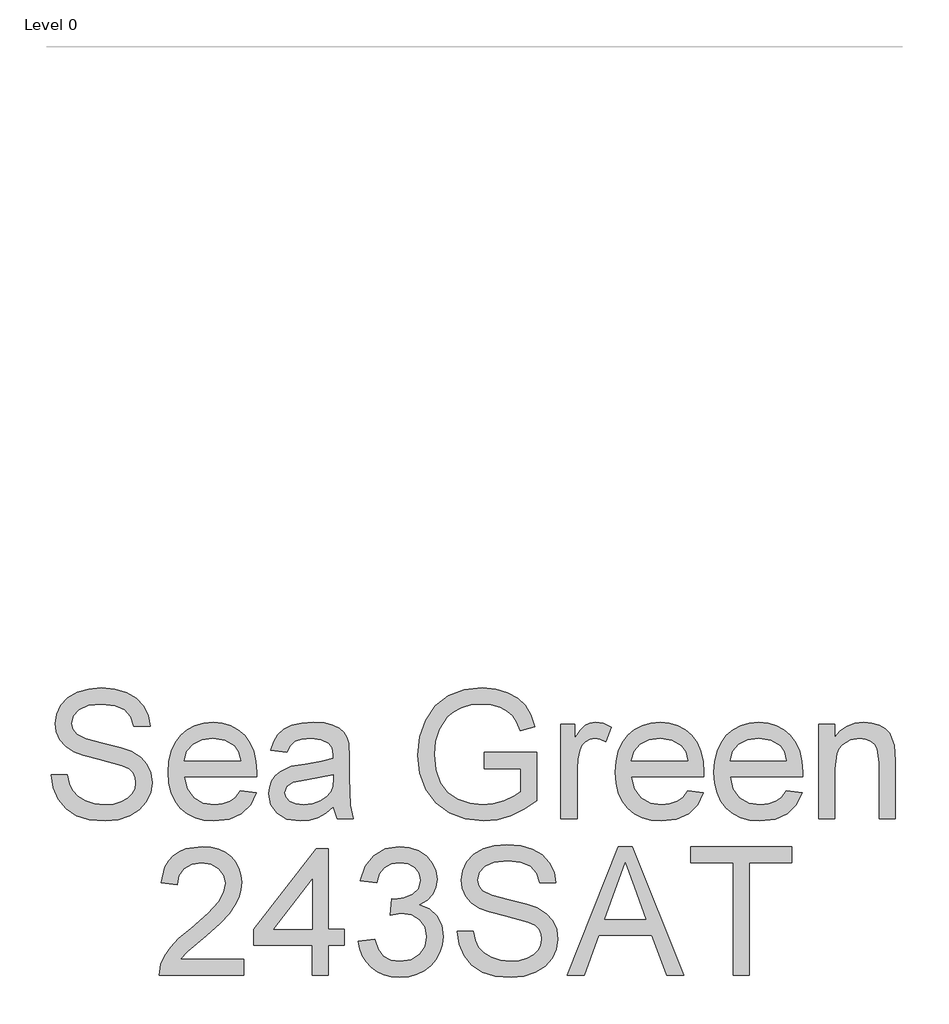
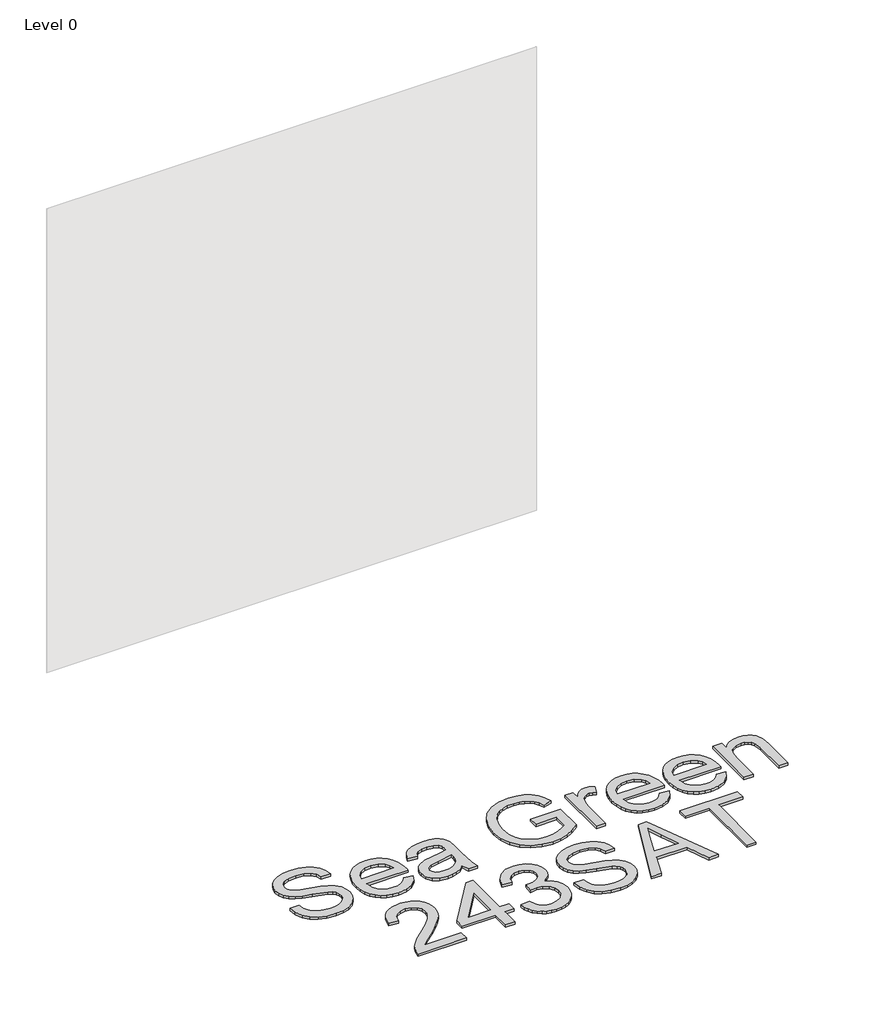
# One storey, part 31 of 37: 1 proxy.
"""IFC4 building model written with IfcOpenShell, lengths in millimetres."""

from ifc_helpers import new_model, si_unit, origin, origin_with_axes, place, context, project, spatial, polyline, outline, extrude, element, save

model = new_model("IFC4")

# Units and contexts
model_context = context("Model", 3, world=origin())
ifc_project = project(units=[si_unit("LENGTHUNIT", "METRE", prefix="MILLI")], contexts=[model_context])

# Site, building, storey
site = spatial("IfcSite", under=ifc_project)
building = spatial("IfcBuilding", under=site)
storey = spatial("IfcBuildingStorey", under=building, Name="Level 0", Elevation=0.0)

# Proxy
placement = place(None, origin())
element("IfcBuildingElementProxy", 1, Name="300mm Arial", ObjectType="300mm Arial", at=placement, inside=storey, context=model_context, shape_type="SweptSolid", body=[
    extrude(outline(polyline([(22560.4751407, -6899.2649241), (22598.146257, -6899.2649241), (22602.4688704, -6920.1698185), (22610.2863628, -6936.9728286), (22622.4816509, -6950.308551), (22639.9376516, -6960.8115819), (22661.2748073, -6967.6265959), (22685.1135606, -6969.8982672), (22706.1012284, -6968.1784189), (22724.4769341, -6963.0188739), (22739.3669579, -6954.8518936), (22749.89758, -6944.1097394), (22756.1607709, -6931.7764955), (22758.2485013, -6918.8362463), (22756.6850028, -6906.2270909), (22751.9945073, -6895.3285868), (22742.4663637, -6886.0303694), (22726.3899205, -6878.222074), (22671.538715, -6863.837888), (22635.5322647, -6854.3189414), (22612.4936548, -6845.2598472), (22593.7408701, -6832.5863125), (22580.451133, -6817.2272392), (22572.532473, -6799.5137211), (22569.8929197, -6779.7768521), (22573.1578724, -6757.7131294), (22582.9527306, -6737.1393289), (22599.0199767, -6719.7017223), (22621.1020935, -6707.0465817), (22647.6079912, -6699.3486509), (22676.9465803, -6696.782674), (22708.7315847, -6699.4682126), (22736.5434635, -6707.5248283), (22759.3889354, -6720.7869742), (22776.274719, -6739.0891034), (22786.961691, -6761.2907818), (22791.210728, -6786.2515752), (22753.5396117, -6786.2515752), (22746.6234302, -6763.7739853), (22732.202456, -6747.5503893), (22709.6696838, -6737.7279401), (22678.4181083, -6734.4537903), (22646.4307688, -6737.6911519), (22624.4866078, -6747.4032365), (22611.794679, -6761.695452), (22607.564036, -6778.6732061), (22610.5622743, -6793.1493626), (22619.5569891, -6804.7928278), (22640.8205684, -6815.2038882), (22681.0668587, -6825.8356779), (22722.6007359, -6835.9340387), (22747.7270762, -6844.7448125), (22769.2021877, -6858.4116286), (22784.1841819, -6875.2790181), (22792.9857587, -6895.1630399), (22795.9196176, -6917.8797531), (22792.5443003, -6941.102304), (22782.4183483, -6962.9452975), (22765.9556291, -6981.7440675), (22743.5700097, -6995.8339479), (22716.6502447, -7004.6355246), (22686.5850886, -7007.5693835), (22649.6773274, -7004.4055984), (22619.2994717, -6994.9142429), (22595.1020335, -6979.0585289), (22576.7355248, -6956.8016682), (22564.9449069, -6929.6887651), (22560.4751407, -6899.2649241)])), origin_with_axes(), (0.0, 0.0, 1.0), 10.0),
    extrude(outline(polyline([(23002.6692989, -6936.9360404), (23039.6046512, -6941.64493), (23026.29652, -6969.4752029), (23005.0605318, -6990.2789297), (22976.3749333, -7003.2467701), (22940.7179709, -7007.5693835), (22917.3436686, -7005.7046817), (22896.5169492, -7000.1105761), (22878.2378125, -6990.7870668), (22862.5062587, -6977.7341537), (22849.8557166, -6961.3151204), (22840.8196151, -6941.8932503), (22835.3979542, -6919.4685435), (22833.5907339, -6894.0409998), (22835.4163483, -6867.7512327), (22840.8931915, -6844.5792656), (22850.0212635, -6824.5250983), (22862.8005643, -6807.5887309), (22878.4907314, -6794.133447), (22896.3514023, -6784.5225298), (22916.3825769, -6778.7559796), (22938.5842553, -6776.8337961), (22960.0708631, -6778.751381), (22979.5019302, -6784.5041357), (22996.8774567, -6794.0920602), (23012.1974425, -6807.5151545), (23024.7031311, -6824.4147337), (23033.6357658, -6844.4321128), (23038.9953466, -6867.5672917), (23040.7818736, -6893.8202706), (23040.5611444, -6903.9738137), (22871.2618502, -6903.9738137), (22877.7825585, -6932.1719686), (22892.9300997, -6952.902119), (22914.7914873, -6965.6492302), (22941.4537349, -6969.8982672), (22961.5033036, -6967.9300985), (22978.3890872, -6962.0255925), (22992.1110856, -6951.8168672), (23002.6692989, -6936.9360404)]), holes=[polyline([(22871.2618502, -6866.3026974), (23003.1107573, -6866.3026974), (22998.0155916, -6846.4002814), (22988.0275955, -6832.1632482), (22966.0650403, -6818.9194964), (22938.4371025, -6814.5049125), (22913.0440478, -6818.0273826), (22892.0471829, -6828.5947929), (22877.4514648, -6845.0667092), (22871.2618502, -6866.3026974)])]), origin_with_axes(), (0.0, 0.0, 1.0), 10.0),
    extrude(outline(polyline([(23219.719676, -6974.6071568), (23201.7210494, -6990.0398064), (23183.1889939, -7000.1381672), (23163.7004452, -7005.7115794), (23142.832339, -7007.5693835), (23111.3508373, -7003.0996173), (23088.1282863, -6989.6903186), (23073.8084797, -6969.3280501), (23069.0352108, -6943.9993748), (23070.8378326, -6928.3827841), (23076.2456979, -6914.2009331), (23084.5874221, -6902.0608273), (23095.1916206, -6892.5694718), (23121.5687597, -6880.2086368), (23154.1631045, -6874.5432541), (23192.6803494, -6868.5835657), (23219.4989468, -6861.5938078), (23219.719676, -6853.2060983), (23217.1261079, -6836.3938912), (23209.3454038, -6825.3942195), (23191.9445854, -6817.2272392), (23167.7011619, -6814.5049125), (23145.2603602, -6816.3167313), (23129.5885872, -6821.7521878), (23118.9016152, -6831.8045633), (23111.4152166, -6847.4671392), (23073.7441003, -6842.7582497), (23080.2832028, -6822.156858), (23090.0412727, -6805.9700502), (23103.928818, -6793.590821), (23122.8563467, -6784.4121652), (23146.0053212, -6778.7283884), (23172.5572042, -6776.8337961), (23198.0238353, -6778.5076592), (23218.2113598, -6783.5292485), (23233.4324774, -6791.0800264), (23243.9998877, -6800.3414556), (23251.0080397, -6811.7917827), (23255.5513823, -6825.9092543), (23257.3907923, -6858.8714811), (23257.3907923, -6905.7396473), (23259.3037787, -6971.1858542), (23266.8085714, -7002.860494), (23229.1374551, -7002.860494), (23219.719676, -6974.6071568)]), holes=[polyline([(23219.719676, -6899.2649241), (23158.9455704, -6910.8164188), (23126.5351666, -6916.9232599), (23111.856675, -6926.8560738), (23106.7063271, -6941.3506244), (23109.5114273, -6952.5526311), (23117.9267279, -6961.7312869), (23131.768288, -6967.8565221), (23150.8521665, -6969.8982672), (23171.0856763, -6967.64499), (23188.9647412, -6960.8851583), (23203.4592918, -6950.9247533), (23213.5392585, -6939.069756), (23218.0090247, -6926.8560738), (23219.4989468, -6909.933502), (23219.719676, -6899.2649241)])]), origin_with_axes(), (0.0, 0.0, 1.0), 10.0),
    extrude(outline(polyline([(23572.8863914, -6885.1382555), (23572.8863914, -6847.4671392), (23695.3175194, -6847.4671392), (23695.3175194, -6960.1126061), (23665.565063, -6980.8059684), (23634.8745076, -6995.6500069), (23603.3194294, -7004.5895394), (23570.973405, -7007.5693835), (23528.7129608, -7002.8329028), (23490.5176127, -6988.6234608), (23458.7877906, -6965.437698), (23435.9239246, -6933.7722553), (23422.1007586, -6895.7884393), (23417.4930366, -6853.6475567), (23422.0823645, -6811.2031715), (23435.8503482, -6771.7202364), (23458.2267705, -6738.6016598), (23488.6414145, -6715.2503502), (23525.6871314, -6701.399593), (23567.9567726, -6696.782674), (23598.9876189, -6699.4590155), (23626.8914683, -6707.4880401), (23650.3899307, -6720.2903335), (23668.2046163, -6737.2864817), (23681.3839888, -6759.295022), (23690.9765118, -6787.134492), (23656.2484515, -6796.9201531), (23648.4953384, -6777.0637224), (23639.0683623, -6762.0817281), (23626.5971627, -6750.7877509), (23609.7113791, -6741.9953712), (23589.5790369, -6736.3391855), (23567.3681615, -6734.4537903), (23541.3681014, -6736.4863383), (23519.1388319, -6742.5839824), (23500.7631262, -6751.9833674), (23486.3237579, -6763.9211381), (23466.9363768, -6792.9470275), (23458.1072089, -6821.3843058), (23455.1641529, -6852.1024524), (23458.7050171, -6888.1272967), (23469.3276097, -6917.7693885), (23486.710034, -6940.8171955), (23510.5303932, -6957.0591856), (23538.4066514, -6966.6884968), (23567.9567726, -6969.8982672), (23594.0488032, -6967.4794431), (23619.4970402, -6960.2229707), (23641.597551, -6950.2257775), (23657.6464031, -6939.5847908), (23657.6464031, -6885.1382555), (23572.8863914, -6885.1382555)])), origin_with_axes(), (0.0, 0.0, 1.0), 10.0),
    extrude(outline(polyline([(23751.8241938, -7002.860494), (23751.8241938, -6781.5426857), (23784.7864206, -6781.5426857), (23784.7864206, -6814.2841833), (23796.9633146, -6795.3014723), (23808.1837155, -6784.1178596), (23819.4409046, -6778.654812), (23831.7281632, -6776.8337961), (23850.4901449, -6779.7400639), (23869.5464323, -6788.4588672), (23856.9648681, -6822.2304343), (23843.7211162, -6816.4362929), (23830.4773644, -6814.5049125), (23819.2293724, -6816.3627165), (23809.1769969, -6821.9361288), (23801.0560018, -6830.8020848), (23795.6021513, -6842.5375205), (23791.0220204, -6863.5803706), (23789.4953101, -6886.5362071), (23789.4953101, -7002.860494), (23751.8241938, -7002.860494)])), origin_with_axes(), (0.0, 0.0, 1.0), 10.0),
    extrude(outline(polyline([(24048.0427764, -6936.9360404), (24084.9781287, -6941.64493), (24071.6699975, -6969.4752029), (24050.4340093, -6990.2789297), (24021.7484107, -7003.2467701), (23986.0914484, -7007.5693835), (23962.7171461, -7005.7046817), (23941.8904266, -7000.1105761), (23923.61129, -6990.7870668), (23907.8797362, -6977.7341537), (23895.2291941, -6961.3151204), (23886.1930926, -6941.8932503), (23880.7714317, -6919.4685435), (23878.9642114, -6894.0409998), (23880.7898258, -6867.7512327), (23886.266669, -6844.5792656), (23895.394741, -6824.5250983), (23908.1740418, -6807.5887309), (23923.8642089, -6794.133447), (23941.7248797, -6784.5225298), (23961.7560544, -6778.7559796), (23983.9577328, -6776.8337961), (24005.4443406, -6778.751381), (24024.8754077, -6784.5041357), (24042.2509342, -6794.0920602), (24057.57092, -6807.5151545), (24070.0766086, -6824.4147337), (24079.0092433, -6844.4321128), (24084.3688241, -6867.5672917), (24086.1553511, -6893.8202706), (24085.9346219, -6903.9738137), (23916.6353277, -6903.9738137), (23923.156036, -6932.1719686), (23938.3035772, -6952.902119), (23960.1649648, -6965.6492302), (23986.8272124, -6969.8982672), (24006.8767811, -6967.9300985), (24023.7625647, -6962.0255925), (24037.4845631, -6951.8168672), (24048.0427764, -6936.9360404)]), holes=[polyline([(23916.6353277, -6866.3026974), (24048.4842347, -6866.3026974), (24043.3890691, -6846.4002814), (24033.4010729, -6832.1632482), (24011.4385178, -6818.9194964), (23983.81058, -6814.5049125), (23958.4175253, -6818.0273826), (23937.4206604, -6828.5947929), (23922.8249422, -6845.0667092), (23916.6353277, -6866.3026974)])]), origin_with_axes(), (0.0, 0.0, 1.0), 10.0),
    extrude(outline(polyline([(24278.7783637, -6936.9360404), (24315.713716, -6941.64493), (24302.4055849, -6969.4752029), (24281.1695967, -6990.2789297), (24252.4839981, -7003.2467701), (24216.8270357, -7007.5693835), (24193.4527335, -7005.7046817), (24172.626014, -7000.1105761), (24154.3468774, -6990.7870668), (24138.6153236, -6977.7341537), (24125.9647815, -6961.3151204), (24116.92868, -6941.8932503), (24111.507019, -6919.4685435), (24109.6997987, -6894.0409998), (24111.5254131, -6867.7512327), (24117.0022564, -6844.5792656), (24126.1303284, -6824.5250983), (24138.9096292, -6807.5887309), (24154.5997963, -6794.133447), (24172.4604671, -6784.5225298), (24192.4916418, -6778.7559796), (24214.6933202, -6776.8337961), (24236.179928, -6778.751381), (24255.6109951, -6784.5041357), (24272.9865216, -6794.0920602), (24288.3065074, -6807.5151545), (24300.812196, -6824.4147337), (24309.7448307, -6844.4321128), (24315.1044115, -6867.5672917), (24316.8909384, -6893.8202706), (24316.6702092, -6903.9738137), (24147.3709151, -6903.9738137), (24153.8916234, -6932.1719686), (24169.0391646, -6952.902119), (24190.9005521, -6965.6492302), (24217.5627997, -6969.8982672), (24237.6123685, -6967.9300985), (24254.498152, -6962.0255925), (24268.2201505, -6951.8168672), (24278.7783637, -6936.9360404)]), holes=[polyline([(24147.3709151, -6866.3026974), (24279.2198221, -6866.3026974), (24274.1246565, -6846.4002814), (24264.1366603, -6832.1632482), (24242.1741052, -6818.9194964), (24214.5461674, -6814.5049125), (24189.1531127, -6818.0273826), (24168.1562478, -6828.5947929), (24153.5605296, -6845.0667092), (24147.3709151, -6866.3026974)])]), origin_with_axes(), (0.0, 0.0, 1.0), 10.0),
    extrude(outline(polyline([(24354.5620547, -7002.860494), (24354.5620547, -6781.5426857), (24392.233171, -6781.5426857), (24392.233171, -6812.4447733), (24405.320573, -6796.8649708), (24421.0383313, -6785.7365404), (24439.3864458, -6779.0594822), (24460.3649165, -6776.8337961), (24478.9337603, -6778.6272209), (24495.9391055, -6784.0074951), (24510.1209564, -6792.303234), (24520.2193172, -6802.8430532), (24531.5132944, -6830.5445674), (24533.4998572, -6866.964885), (24533.4998572, -7002.860494), (24495.8287409, -7002.860494), (24495.8287409, -6872.0416565), (24491.4877333, -6838.7115477), (24485.4820598, -6828.7879309), (24476.1470541, -6821.0900002), (24464.1816922, -6816.1511844), (24450.2849499, -6814.5049125), (24428.2212272, -6818.2021265), (24409.4132602, -6829.2937687), (24401.8969712, -6838.3482643), (24396.5281933, -6850.7228949), (24392.233171, -6885.4325611), (24392.233171, -7002.860494), (24354.5620547, -7002.860494)])), origin_with_axes(), (0.0, 0.0, 1.0), 10.0),
    extrude(outline(polyline([(23010.1740916, -7331.1138312), (23010.1740916, -7368.7849475), (22812.400731, -7368.7849475), (22816.4474329, -7342.8124787), (22825.7364533, -7322.5145896), (22839.329693, -7302.8237058), (22858.9929856, -7282.213117), (22886.4921648, -7259.156113), (22927.1431253, -7223.0484951), (22951.5337015, -7196.3954446), (22963.7289897, -7174.7639833), (22967.7940857, -7153.7211331), (22963.9589159, -7134.8579838), (22952.4534065, -7119.1770138), (22934.7674796, -7108.6096035), (22912.3910572, -7105.0871334), (22888.8925948, -7108.52683), (22870.6364508, -7118.84592), (22858.8550299, -7135.2350629), (22854.7807368, -7156.8849183), (22817.1096205, -7152.1760288), (22826.242291, -7115.7373171), (22834.7886496, -7101.2013798), (22845.9883571, -7089.1210548), (22859.5838961, -7079.6251008), (22875.3177492, -7072.8422765), (22913.2003976, -7067.4160171), (22933.3902214, -7068.9243332), (22951.3589576, -7073.4492818), (22967.1066062, -7080.9908627), (22980.6331673, -7091.549076), (22991.4971825, -7104.3421723), (22999.2571934, -7118.5884026), (23003.9131999, -7134.2877667), (23005.465202, -7151.4402648), (23003.7913389, -7169.4572855), (22998.7697497, -7187.1616065), (22989.8578084, -7205.1694302), (22976.512889, -7224.0969588), (22955.2401126, -7246.6941104), (22922.5446003, -7275.7108027), (22879.2081013, -7311.9471793), (22862.2119531, -7331.1138312), (23010.1740916, -7331.1138312)])), origin_with_axes(), (0.0, 0.0, 1.0), 10.0),
    extrude(outline(polyline([(23170.2763359, -7368.7849475), (23170.2763359, -7298.1516044), (23033.7185393, -7298.1516044), (23033.7185393, -7260.4804881), (23179.6941149, -7072.1249066), (23207.9474522, -7072.1249066), (23207.9474522, -7260.4804881), (23245.6185685, -7260.4804881), (23245.6185685, -7298.1516044), (23207.9474522, -7298.1516044), (23207.9474522, -7368.7849475), (23170.2763359, -7368.7849475)]), holes=[polyline([(23170.2763359, -7260.4804881), (23170.2763359, -7144.0826249), (23080.0716706, -7260.4804881), (23170.2763359, -7260.4804881)])]), origin_with_axes(), (0.0, 0.0, 1.0), 10.0),
    extrude(outline(polyline([(23278.5807952, -7288.7338254), (23316.2519115, -7284.0249358), (23324.6856063, -7307.6981422), (23337.0372443, -7323.6826149), (23353.9138308, -7332.7876943), (23375.9223712, -7335.8227207), (23401.7476872, -7331.6472601), (23421.6868914, -7319.1208782), (23434.4340025, -7300.4324728), (23438.6830395, -7277.7709419), (23434.4707907, -7256.2590422), (23421.8340442, -7238.8122386), (23402.7041804, -7227.2515469), (23379.0125799, -7223.397983), (23352.5986527, -7227.5182614), (23356.7925074, -7189.8471451), (23362.8257721, -7190.2886035), (23385.3953325, -7187.5846708), (23405.57366, -7179.4728728), (23419.8106932, -7165.7508744), (23424.5563709, -7146.2163404), (23421.1166743, -7129.9467592), (23410.7975843, -7116.7489926), (23395.0522349, -7108.0025982), (23375.33376, -7105.0871334), (23355.5784968, -7108.0301893), (23339.4284772, -7116.8593572), (23327.6378593, -7131.574637), (23320.9608011, -7152.1760288), (23283.2896848, -7147.4671392), (23294.3813269, -7113.6403898), (23314.118196, -7088.3852908), (23341.1207344, -7072.6583355), (23374.0093848, -7067.4160171), (23397.6917882, -7070.0003881), (23419.4428112, -7077.7535011), (23437.7817287, -7089.9855775), (23451.2278156, -7106.0068384), (23459.4775693, -7124.4653175), (23462.2274872, -7144.0090485), (23459.6155251, -7162.2192072), (23451.7796386, -7178.7371088), (23438.8301923, -7192.8085951), (23420.877551, -7203.6795081), (23444.4587869, -7213.2076518), (23461.9331816, -7229.4312477), (23472.7489123, -7251.4673793), (23476.3541558, -7278.4331295), (23474.5515341, -7297.5445992), (23469.1436687, -7315.1477526), (23460.1305599, -7331.2425899), (23447.5122074, -7345.829111), (23432.1393386, -7357.9324287), (23414.8626804, -7366.5776555), (23395.6822328, -7371.7647917), (23374.597996, -7373.4938371), (23355.5417086, -7372.0177105), (23338.1776785, -7367.589331), (23322.5059055, -7360.2086985), (23308.5263896, -7349.875813), (23296.8047496, -7337.1976797), (23287.9066038, -7322.781304), (23281.8319524, -7306.6266859), (23278.5807952, -7288.7338254)])), origin_with_axes(), (0.0, 0.0, 1.0), 10.0),
    extrude(outline(polyline([(23509.3163826, -7265.1893777), (23546.9874989, -7265.1893777), (23551.3101124, -7286.0942721), (23559.1276048, -7302.8972822), (23571.3228929, -7316.2330045), (23588.7788936, -7326.7360355), (23610.1160493, -7333.5510494), (23633.9548026, -7335.8227207), (23654.9424704, -7334.1028724), (23673.3181761, -7328.9433274), (23688.2081998, -7320.7763471), (23698.7388219, -7310.0341929), (23705.0020129, -7297.700949), (23707.0897432, -7284.7606998), (23705.5262447, -7272.1515444), (23700.8357493, -7261.2530403), (23691.3076056, -7251.9548229), (23675.2311624, -7244.1465276), (23620.379957, -7229.7623415), (23584.3735067, -7220.2433949), (23561.3348967, -7211.1843008), (23542.582112, -7198.510766), (23529.292375, -7183.1516928), (23521.373715, -7165.4381747), (23518.7341617, -7145.7013056), (23521.9991144, -7123.637583), (23531.7939725, -7103.0637824), (23547.8612187, -7085.6261758), (23569.9433354, -7072.9710352), (23596.4492332, -7065.2731044), (23625.7878223, -7062.7071275), (23657.5728267, -7065.3926661), (23685.3847055, -7073.4492818), (23708.2301774, -7086.7114277), (23725.115961, -7105.013557), (23735.8029329, -7127.2152354), (23740.05197, -7152.1760288), (23702.3808537, -7152.1760288), (23695.4646722, -7129.6984389), (23681.043698, -7113.4748429), (23658.5109258, -7103.6523936), (23627.2593503, -7100.3782438), (23595.2720108, -7103.6156054), (23573.3278498, -7113.3276901), (23560.6359209, -7127.6199056), (23556.405278, -7144.5976597), (23559.4035163, -7159.0738162), (23568.398231, -7170.7172813), (23589.6618104, -7181.1283418), (23629.9081006, -7191.7601314), (23671.4419779, -7201.8584922), (23696.5683182, -7210.669266), (23718.0434296, -7224.3360821), (23733.0254239, -7241.2034716), (23741.8270006, -7261.0874934), (23744.7608595, -7283.8042066), (23741.3855422, -7307.0267576), (23731.2595903, -7328.869751), (23714.796871, -7347.668521), (23692.4112516, -7361.7584014), (23665.4914866, -7370.5599781), (23635.4263306, -7373.4938371), (23598.5185694, -7370.3300519), (23568.1407136, -7360.8386964), (23543.9432754, -7344.9829824), (23525.5767668, -7322.7261217), (23513.7861489, -7295.6132187), (23509.3163826, -7265.1893777)])), origin_with_axes(), (0.0, 0.0, 1.0), 10.0),
    extrude(outline(polyline([(23766.1715916, -7368.7849475), (23886.4690041, -7067.4160171), (23918.5483141, -7067.4160171), (24038.8457265, -7368.7849475), (23999.0408946, -7368.7849475), (23964.5335634, -7274.6071568), (23840.4101783, -7274.6071568), (23805.9764235, -7368.7849475), (23766.1715916, -7368.7849475)]), holes=[polyline([(23854.2425413, -7236.9360404), (23950.7747768, -7236.9360404), (23923.6250856, -7162.8446066), (23902.5086591, -7105.0871334), (23883.7466773, -7156.3698835), (23854.2425413, -7236.9360404)])]), origin_with_axes(), (0.0, 0.0, 1.0), 10.0),
    extrude(outline(polyline([(24154.4342494, -7368.7849475), (24154.4342494, -7105.0871334), (24055.5475691, -7105.0871334), (24055.5475691, -7067.4160171), (24290.992046, -7067.4160171), (24290.992046, -7105.0871334), (24192.1053657, -7105.0871334), (24192.1053657, -7368.7849475), (24154.4342494, -7368.7849475)])), origin_with_axes(), (0.0, 0.0, 1.0), 10.0),
])

save(model, "model.ifc")
